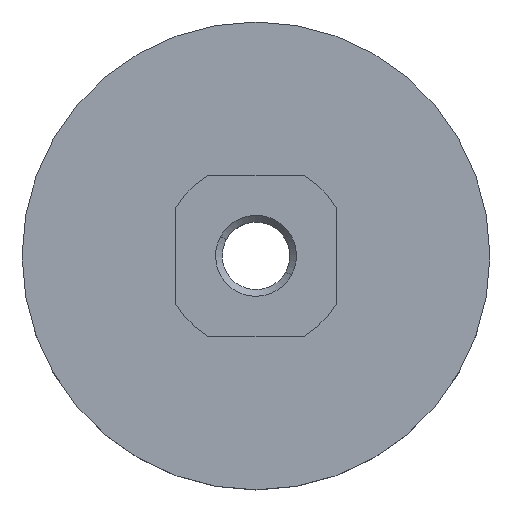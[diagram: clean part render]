
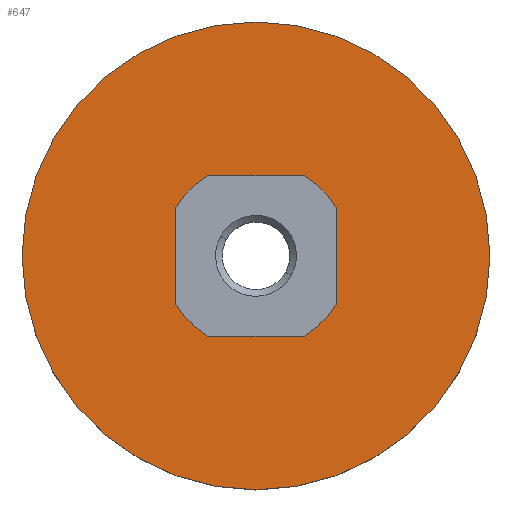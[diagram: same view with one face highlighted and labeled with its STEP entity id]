
A CAD part, top view. The second image highlights one B-rep face of the part: STEP entity #647.
In plain terms, the highlighted planar face has unit normal (0, 0, 1).
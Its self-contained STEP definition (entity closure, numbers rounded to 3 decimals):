
#353=AXIS2_PLACEMENT_3D('Circle Axis2P3D',#351,#352,$) ;
#365=AXIS2_PLACEMENT_3D('Circle Axis2P3D',#363,#364,$) ;
#405=AXIS2_PLACEMENT_3D('Circle Axis2P3D',#403,#404,$) ;
#426=AXIS2_PLACEMENT_3D('Circle Axis2P3D',#424,#425,$) ;
#475=AXIS2_PLACEMENT_3D('Circle Axis2P3D',#473,#474,$) ;
#496=AXIS2_PLACEMENT_3D('Circle Axis2P3D',#494,#495,$) ;
#631=AXIS2_PLACEMENT_3D('Plane Axis2P3D',#628,#629,#630) ;
#341=CARTESIAN_POINT('Vertex',(35.,0.,14.)) ;
#348=CARTESIAN_POINT('Vertex',(-35.,0.,14.)) ;
#351=CARTESIAN_POINT('Axis2P3D Location',(0.,0.,14.)) ;
#363=CARTESIAN_POINT('Axis2P3D Location',(0.,0.,14.)) ;
#386=CARTESIAN_POINT('Vertex',(7.211,12.,14.)) ;
#400=CARTESIAN_POINT('Vertex',(12.,7.211,14.)) ;
#403=CARTESIAN_POINT('Axis2P3D Location',(0.,0.,14.)) ;
#421=CARTESIAN_POINT('Vertex',(-7.211,12.,14.)) ;
#424=CARTESIAN_POINT('Axis2P3D Location',(0.,0.,14.)) ;
#428=CARTESIAN_POINT('Vertex',(-12.,7.211,14.)) ;
#456=CARTESIAN_POINT('Vertex',(-7.211,-12.,14.)) ;
#470=CARTESIAN_POINT('Vertex',(-12.,-7.211,14.)) ;
#473=CARTESIAN_POINT('Axis2P3D Location',(0.,0.,14.)) ;
#491=CARTESIAN_POINT('Vertex',(7.211,-12.,14.)) ;
#494=CARTESIAN_POINT('Axis2P3D Location',(0.,0.,14.)) ;
#498=CARTESIAN_POINT('Vertex',(12.,-7.211,14.)) ;
#565=CARTESIAN_POINT('Line Origine',(0.,12.,14.)) ;
#582=CARTESIAN_POINT('Line Origine',(12.,0.,14.)) ;
#599=CARTESIAN_POINT('Line Origine',(0.,-12.,14.)) ;
#616=CARTESIAN_POINT('Line Origine',(-12.,0.,14.)) ;
#628=CARTESIAN_POINT('Axis2P3D Location',(0.,0.,14.)) ;
#352=DIRECTION('Axis2P3D Direction',(0.,0.,1.)) ;
#364=DIRECTION('Axis2P3D Direction',(0.,0.,1.)) ;
#404=DIRECTION('Axis2P3D Direction',(0.,0.,1.)) ;
#425=DIRECTION('Axis2P3D Direction',(0.,0.,1.)) ;
#474=DIRECTION('Axis2P3D Direction',(0.,0.,1.)) ;
#495=DIRECTION('Axis2P3D Direction',(0.,0.,1.)) ;
#566=DIRECTION('Vector Direction',(1.,0.,0.)) ;
#583=DIRECTION('Vector Direction',(0.,-1.,0.)) ;
#600=DIRECTION('Vector Direction',(1.,0.,0.)) ;
#617=DIRECTION('Vector Direction',(0.,-1.,0.)) ;
#629=DIRECTION('Axis2P3D Direction',(0.,0.,1.)) ;
#630=DIRECTION('Axis2P3D XDirection',(1.,0.,0.)) ;
#567=VECTOR('Line Direction',#566,1.) ;
#584=VECTOR('Line Direction',#583,1.) ;
#601=VECTOR('Line Direction',#600,1.) ;
#618=VECTOR('Line Direction',#617,1.) ;
#634=ORIENTED_EDGE('',*,*,#355,.T.) ;
#635=ORIENTED_EDGE('',*,*,#367,.T.) ;
#638=ORIENTED_EDGE('',*,*,#603,.T.) ;
#639=ORIENTED_EDGE('',*,*,#477,.F.) ;
#640=ORIENTED_EDGE('',*,*,#620,.T.) ;
#641=ORIENTED_EDGE('',*,*,#430,.F.) ;
#642=ORIENTED_EDGE('',*,*,#569,.T.) ;
#643=ORIENTED_EDGE('',*,*,#407,.F.) ;
#644=ORIENTED_EDGE('',*,*,#586,.T.) ;
#645=ORIENTED_EDGE('',*,*,#500,.F.) ;
#646=FACE_BOUND('',#637,.T.) ;
#647=ADVANCED_FACE('\X2\96F64EF651E04F554F53\X0\',(#636,#646),#632,.T.) ;
#354=CIRCLE('generated circle',#353,35.) ;
#366=CIRCLE('generated circle',#365,35.) ;
#406=CIRCLE('generated circle',#405,14.) ;
#427=CIRCLE('generated circle',#426,14.) ;
#476=CIRCLE('generated circle',#475,14.) ;
#497=CIRCLE('generated circle',#496,14.) ;
#355=EDGE_CURVE('',#342,#349,#354,.T.) ;
#367=EDGE_CURVE('',#349,#342,#366,.T.) ;
#407=EDGE_CURVE('',#401,#387,#406,.T.) ;
#430=EDGE_CURVE('',#422,#429,#427,.T.) ;
#477=EDGE_CURVE('',#471,#457,#476,.T.) ;
#500=EDGE_CURVE('',#492,#499,#497,.T.) ;
#569=EDGE_CURVE('',#422,#387,#568,.T.) ;
#586=EDGE_CURVE('',#401,#499,#585,.T.) ;
#603=EDGE_CURVE('',#492,#457,#602,.F.) ;
#620=EDGE_CURVE('',#471,#429,#619,.F.) ;
#633=EDGE_LOOP('',(#634,#635)) ;
#637=EDGE_LOOP('',(#638,#639,#640,#641,#642,#643,#644,#645)) ;
#636=FACE_OUTER_BOUND('',#633,.T.) ;
#568=LINE('Line',#565,#567) ;
#585=LINE('Line',#582,#584) ;
#602=LINE('Line',#599,#601) ;
#619=LINE('Line',#616,#618) ;
#632=PLANE('Plane',#631) ;
#342=VERTEX_POINT('',#341) ;
#349=VERTEX_POINT('',#348) ;
#387=VERTEX_POINT('',#386) ;
#401=VERTEX_POINT('',#400) ;
#422=VERTEX_POINT('',#421) ;
#429=VERTEX_POINT('',#428) ;
#457=VERTEX_POINT('',#456) ;
#471=VERTEX_POINT('',#470) ;
#492=VERTEX_POINT('',#491) ;
#499=VERTEX_POINT('',#498) ;
